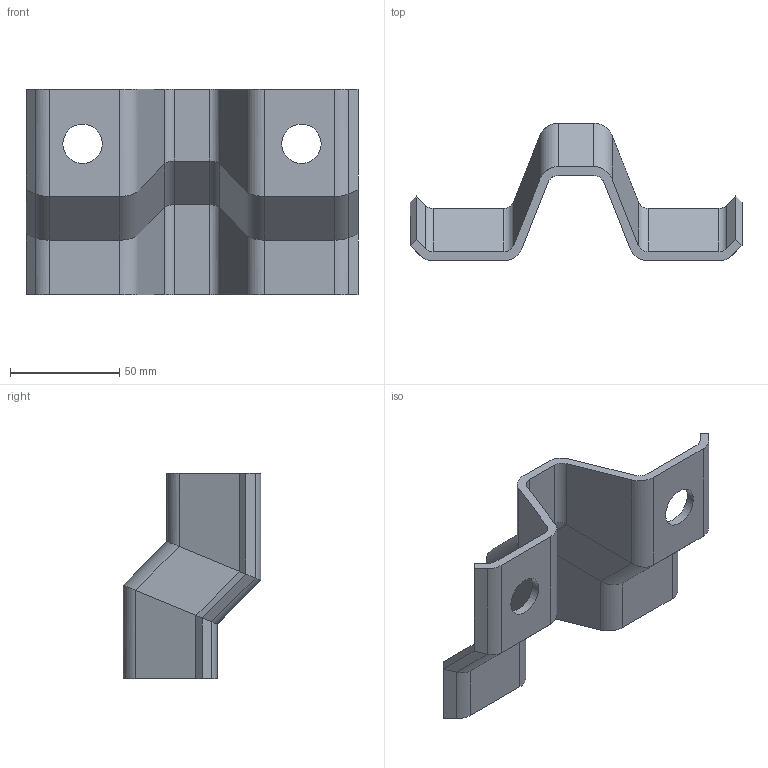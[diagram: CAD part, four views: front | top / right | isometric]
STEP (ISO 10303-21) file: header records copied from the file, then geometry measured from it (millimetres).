
FILE_DESCRIPTION(/* description */ (''),/* implementation_level */ '2;1');
FILE_NAME(/* name */ 'C125.stp',/* time_stamp */ '2023-07-03T10:41:37+02:00',/* author */ ('woriedl'),/* organization */ (''),/* preprocessor_version */ 'ST-DEVELOPER v19.2',/* originating_system */ 'AutoCAD Mechanical',/* authorisation */ '');
FILE_SCHEMA (('AUTOMOTIVE_DESIGN { 1 0 10303 214 3 1 1 }'));
Length unit declared in the file: centimetre
Products named in the file (1): Product
Bounding box: 151.72 x 63 x 94 mm (x, y, z)
Volume: 80538 mm3; surface area: 43154.3 mm2
Topology: 1 solids, 1 shells, 88 faces, 202 edges, 116 vertices
Faces by surface type: plane 50, cylinder 38
Full cylindrical faces by diameter (mm): 18 x2
Entity records: 2441 total; most frequent: DIRECTION 432, CARTESIAN_POINT 407, ORIENTED_EDGE 404, EDGE_CURVE 202, LINE 150, VECTOR 150, AXIS2_PLACEMENT_3D 141, VERTEX_POINT 116
